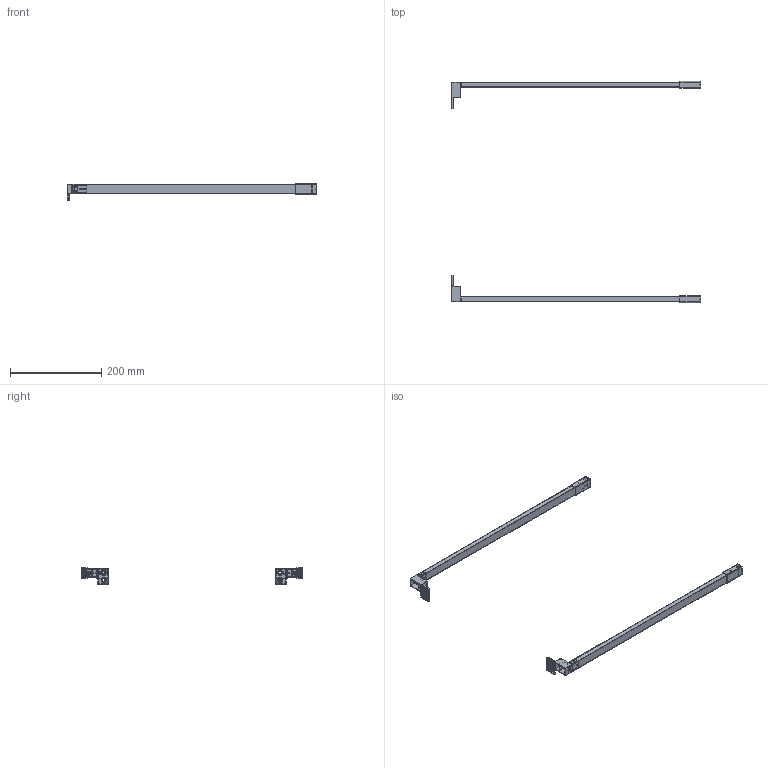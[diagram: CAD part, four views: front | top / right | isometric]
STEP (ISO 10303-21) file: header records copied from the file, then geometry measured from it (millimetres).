
FILE_DESCRIPTION(/* description */ (''),/* implementation_level */ '2;1');
FILE_NAME(/* name */ 'D:\$Workingspace\Designs\Katalog\Cadsoft\GTV Prowadnice\GTV 3D AXISPRO\Model\PB-AXISPRO-RELKW\PB-AXISPRO-RELKW-550.stp',/* time_stamp */ '2019-12-10T12:38:36+01:00',/* author */ ('tomaszw'),/* organization */ (''),/* preprocessor_version */ 'ST-DEVELOPER v17.2',/* originating_system */ 'Autodesk Inventor 2019',/* authorisation */ '');
FILE_SCHEMA (('AUTOMOTIVE_DESIGN { 1 0 10303 214 3 1 1 }'));
Products named in the file (12): RELING (PB-AXISPRO-RELKW)-01; reling L-01; Ö±°å³é¹Ì¶¨Ö
§¼Ü; reling-01; Ö±°å³é¹Ì¶¨Ö
§¼Ü_R; Ö±°å³é»î¶¯¿
é; Ö±°å³é½ºÌ×; Ö±°å³éÁ¬½Ó¿
é; CBZ·½¸ËÁ¬½Ó¼þ_
L; CBZ·½¸Ë-±³°åÁ¬
½Ó¼þ_L; CBZ·½¸ËÁ¬½Ó¼þ_
R; CBZ·½¸Ë-±³°åÁ¬
½Ó¼þ_R
Assembly tree (14 placements, depth 2):
  RELING (PB-AXISPRO-RELKW)-01
    reling L-01
    Ö±°å³é½ºÌ×  x2
    Ö±°å³é¹Ì¶¨Ö
§¼Ü
    Ö±°å³é»î¶¯¿
é  x2
    Ö±°å³éÁ¬½Ó¿
é  x2
    reling-01
    Ö±°å³é¹Ì¶¨Ö
§¼Ü_R
    CBZ·½¸ËÁ¬½Ó¼þ_
L
    CBZ·½¸Ë-±³°åÁ¬
½Ó¼þ_L
    CBZ·½¸ËÁ¬½Ó¼þ_
R
    CBZ·½¸Ë-±³°åÁ¬
½Ó¼þ_R
Bounding box: 545.37 x 483.35 x 35.9 mm (x, y, z)
Volume: 93277.1 mm3; surface area: 163750.3 mm2
Topology: 14 solids, 14 shells, 3788 faces, 9283 edges, 5206 vertices
Faces by surface type: cylinder 1612, plane 1022, torus 542, sphere 376, bspline 226, cone 10
Full cylindrical faces by diameter (mm): 4.5 x2, 8.4 x2
Entity records: 93484 total; most frequent: CARTESIAN_POINT 21306, DIRECTION 16166, ORIENTED_EDGE 14596, EDGE_CURVE 7298, AXIS2_PLACEMENT_3D 6242, VERTEX_POINT 4279, LINE 3682, VECTOR 3682
